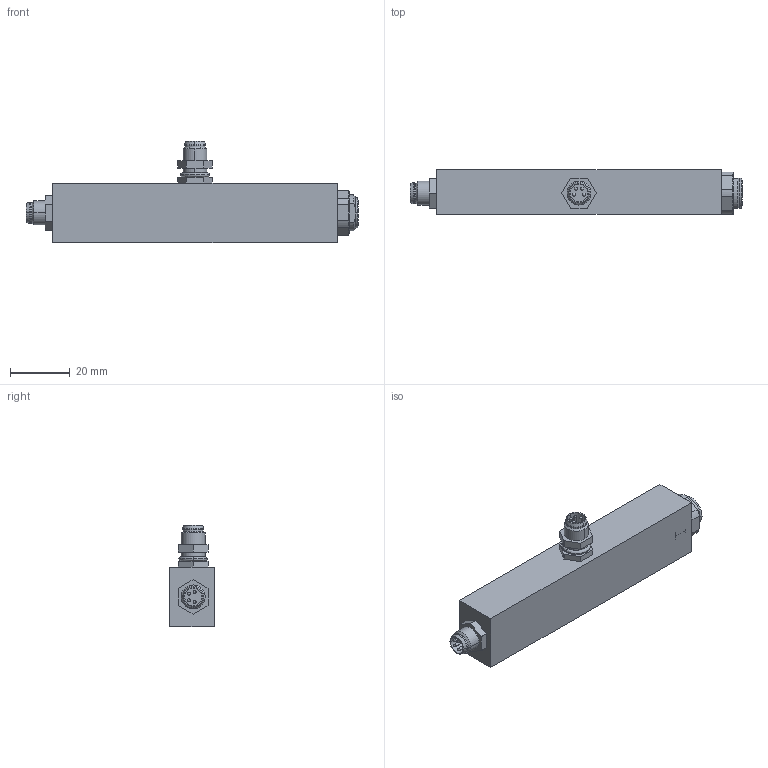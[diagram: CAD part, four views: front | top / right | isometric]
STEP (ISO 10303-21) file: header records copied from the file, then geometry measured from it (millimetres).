
FILE_DESCRIPTION (( 'STEP AP203' ), '1' );
FILE_NAME ('Power injector.STEP', '2019-03-15T07:06:20', ( '' ), ( '' ), 'SwSTEP 2.0', 'SolidWorks 2018', '' );
FILE_SCHEMA (( 'CONFIG_CONTROL_DESIGN' ));
Length unit declared in the file: millimetre
Products named in the file (7): Costampato Power injector; 1694376; Power injector; Base scheda Power injector; 1694347
Assembly tree (7 placements, depth 3):
  Power injector
    Base scheda Power injector
    1694347  x2
      1694347
    1694376
      1694376
    Costampato Power injector
Bounding box: 111 x 15 x 34 mm (x, y, z)
Volume: 33898.1 mm3; surface area: 13626.2 mm2
Topology: 5 solids, 5 shells, 384 faces, 911 edges, 579 vertices
Faces by surface type: cylinder 185, plane 119, cone 58, bspline 22
Entity records: 9382 total; most frequent: CARTESIAN_POINT 1852, DIRECTION 1532, ORIENTED_EDGE 1344, EDGE_CURVE 672, AXIS2_PLACEMENT_3D 624, VERTEX_POINT 432, CIRCLE 339, EDGE_LOOP 330
